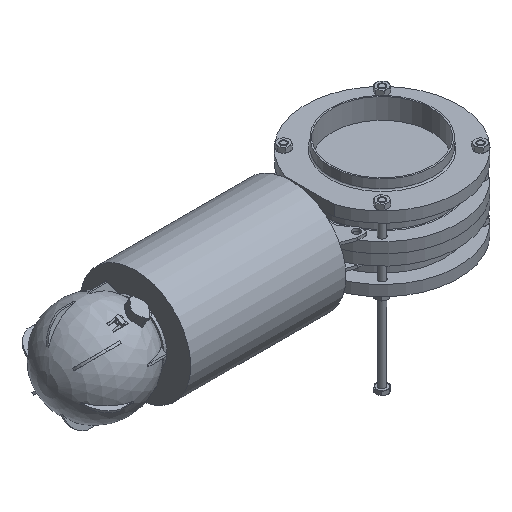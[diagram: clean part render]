
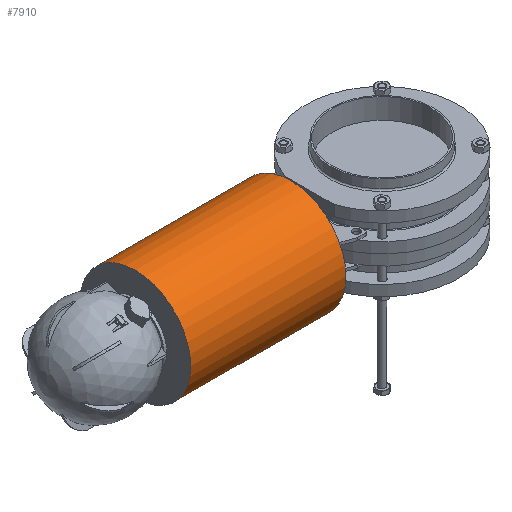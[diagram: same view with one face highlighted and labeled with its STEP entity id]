
A CAD part, isometric view. The second image highlights one B-rep face of the part: STEP entity #7910.
In plain terms, the highlighted cylindrical face has radius 83.5 mm (diameter 167 mm), a full revolution.
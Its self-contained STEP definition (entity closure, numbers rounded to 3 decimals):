
#754=FACE_OUTER_BOUND('',#1260,.T.);
#1260=EDGE_LOOP('',(#5699,#5700,#5701,#5702));
#1822=LINE('',#12856,#2345);
#2345=VECTOR('',#9989,83.5);
#2813=CIRCLE('',#8649,83.5);
#2815=CIRCLE('',#8652,83.5);
#3447=VERTEX_POINT('',#12849);
#3449=VERTEX_POINT('',#12854);
#4303=EDGE_CURVE('',#3447,#3447,#2813,.T.);
#4305=EDGE_CURVE('',#3449,#3449,#2815,.T.);
#4306=EDGE_CURVE('',#3449,#3447,#1822,.T.);
#5699=ORIENTED_EDGE('',*,*,#4305,.F.);
#5700=ORIENTED_EDGE('',*,*,#4306,.T.);
#5701=ORIENTED_EDGE('',*,*,#4303,.T.);
#5702=ORIENTED_EDGE('',*,*,#4306,.F.);
#7769=CYLINDRICAL_SURFACE('',#8651,83.5);
#7910=ADVANCED_FACE('',(#754),#7769,.T.);
#8649=AXIS2_PLACEMENT_3D('',#12850,#9981,#9982);
#8651=AXIS2_PLACEMENT_3D('',#12853,#9985,#9986);
#8652=AXIS2_PLACEMENT_3D('',#12855,#9987,#9988);
#9981=DIRECTION('center_axis',(0.,0.,-1.));
#9982=DIRECTION('ref_axis',(0.,1.,0.));
#9985=DIRECTION('center_axis',(0.,0.,-1.));
#9986=DIRECTION('ref_axis',(0.,1.,0.));
#9987=DIRECTION('center_axis',(0.,0.,-1.));
#9988=DIRECTION('ref_axis',(0.,1.,0.));
#9989=DIRECTION('',(0.,0.,1.));
#12849=CARTESIAN_POINT('',(0.,-83.5,238.));
#12850=CARTESIAN_POINT('Origin',(0.,0.,238.));
#12853=CARTESIAN_POINT('Origin',(0.,0.,121.));
#12854=CARTESIAN_POINT('',(0.,-83.5,4.));
#12855=CARTESIAN_POINT('Origin',(0.,0.,4.));
#12856=CARTESIAN_POINT('',(0.,-83.5,121.));
